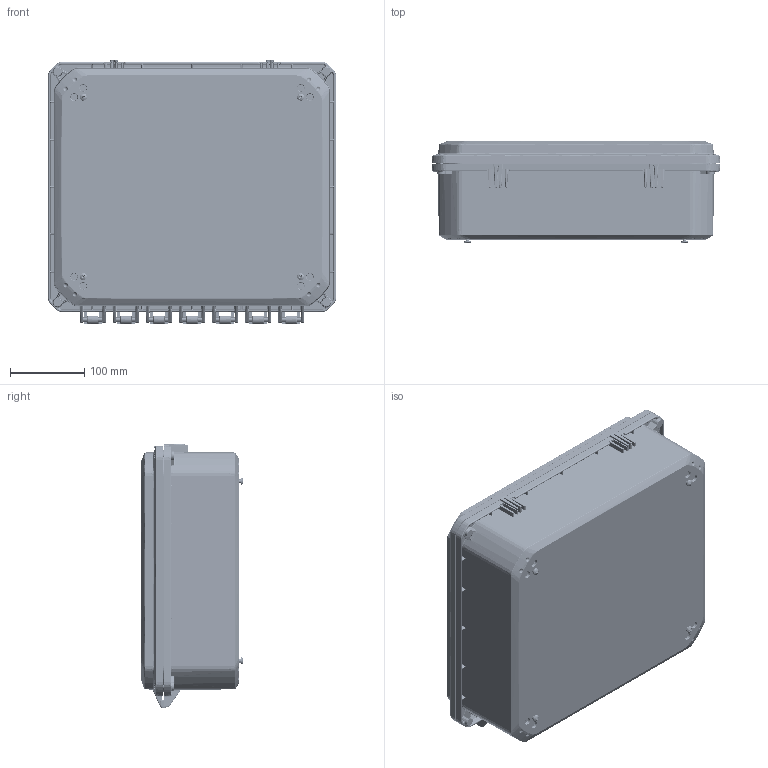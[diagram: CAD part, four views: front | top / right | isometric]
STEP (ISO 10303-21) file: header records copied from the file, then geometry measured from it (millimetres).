
FILE_DESCRIPTION (( 'STEP AP214' ), '1' );
FILE_NAME ('ZH-141204-91.STEP', '2024-10-25T19:37:32', ( '' ), ( '' ), 'SwSTEP 2.0', 'SolidWorks 2024', '' );
FILE_SCHEMA (( 'AUTOMOTIVE_DESIGN' ));
Length unit declared in the file: inch
Products named in the file (10): SCREWS-046_SCREWS-046; Z_-14124B_ZH-14124B-01; ZH-141204-91; Z_-14121C_ZH-14121C-01; SCREWS-049_SCREWS-049; Z_-14124BI_ZH-14124BI-01; LABEL-104; ZH-1412G; INSERTS-4; Z_-14121CG_ZH-14121CG-01
Assembly tree (26 placements, depth 3):
  ZH-141204-91
    Z_-14124BI_ZH-14124BI-01
      Z_-14124B_ZH-14124B-01
      INSERTS-4  x12
      LABEL-104
    Z_-14121CG_ZH-14121CG-01
      Z_-14121C_ZH-14121C-01
      ZH-1412G
    SCREWS-046_SCREWS-046  x4
    SCREWS-049_SCREWS-049  x4
Bounding box: 387.1 x 137.95 x 355.47 mm (x, y, z)
Volume: 2087905.9 mm3; surface area: 988315.5 mm2
Topology: 24 solids, 24 shells, 7451 faces, 18341 edges, 10864 vertices
Faces by surface type: bspline 2219, cylinder 1702, plane 1586, cone 1184, torus 720, sphere 40
Entity records: 272394 total; most frequent: CARTESIAN_POINT 151181, ORIENTED_EDGE 28312, DIRECTION 22138, EDGE_CURVE 14156, AXIS2_PLACEMENT_3D 9085, VERTEX_POINT 8291, EDGE_LOOP 6151, FACE_OUTER_BOUND 5995
